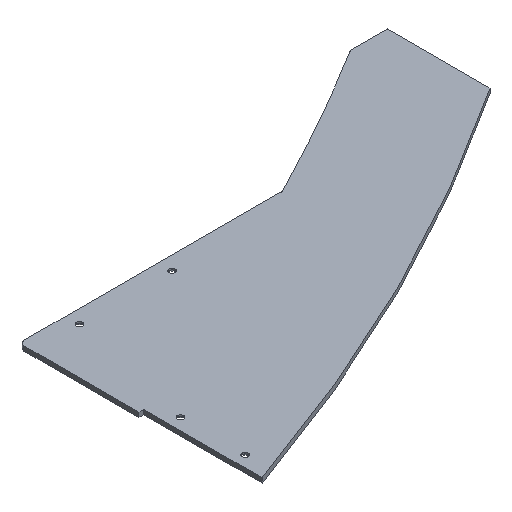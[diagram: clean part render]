
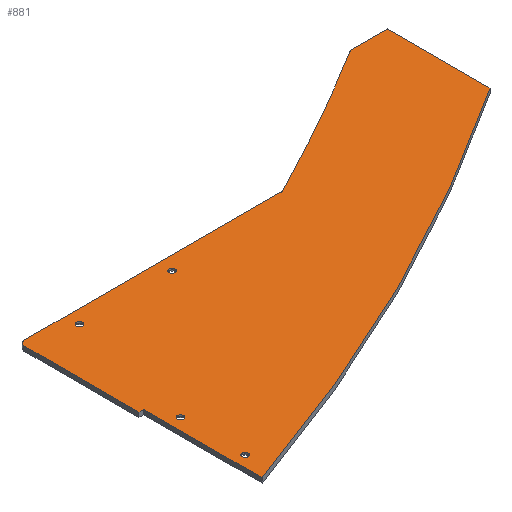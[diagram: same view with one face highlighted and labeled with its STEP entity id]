
A CAD part, isometric view. The second image highlights one B-rep face of the part: STEP entity #881.
In plain terms, the highlighted planar face has unit normal (0, 0, 1).
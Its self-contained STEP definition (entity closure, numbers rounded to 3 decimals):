
#573=PLANE('',#837);
#581=CIRCLE('',#832,10.);
#582=CIRCLE('',#835,10.);
#584=CIRCLE('',#838,4227.498);
#585=CIRCLE('',#839,4399.949);
#586=CIRCLE('',#840,6.75);
#587=CIRCLE('',#841,6.75);
#588=CIRCLE('',#842,6.75);
#589=CIRCLE('',#843,6.75);
#612=ORIENTED_EDGE('',*,*,#719,.T.);
#613=ORIENTED_EDGE('',*,*,#726,.T.);
#614=ORIENTED_EDGE('',*,*,#727,.T.);
#615=ORIENTED_EDGE('',*,*,#728,.F.);
#616=ORIENTED_EDGE('',*,*,#729,.T.);
#617=ORIENTED_EDGE('',*,*,#730,.T.);
#618=ORIENTED_EDGE('',*,*,#731,.F.);
#619=ORIENTED_EDGE('',*,*,#732,.F.);
#620=ORIENTED_EDGE('',*,*,#723,.F.);
#621=ORIENTED_EDGE('',*,*,#722,.F.);
#622=ORIENTED_EDGE('',*,*,#733,.T.);
#623=ORIENTED_EDGE('',*,*,#734,.T.);
#624=ORIENTED_EDGE('',*,*,#735,.T.);
#625=ORIENTED_EDGE('',*,*,#736,.T.);
#685=VERTEX_POINT('',#1179);
#687=VERTEX_POINT('',#1183);
#689=VERTEX_POINT('',#1188);
#690=VERTEX_POINT('',#1193);
#692=VERTEX_POINT('',#1199);
#693=VERTEX_POINT('',#1201);
#694=VERTEX_POINT('',#1203);
#695=VERTEX_POINT('',#1205);
#696=VERTEX_POINT('',#1207);
#697=VERTEX_POINT('',#1209);
#698=VERTEX_POINT('',#1212);
#699=VERTEX_POINT('',#1214);
#700=VERTEX_POINT('',#1216);
#701=VERTEX_POINT('',#1218);
#719=EDGE_CURVE('',#685,#687,#581,.T.);
#722=EDGE_CURVE('',#685,#689,#1081,.T.);
#723=EDGE_CURVE('',#689,#690,#582,.T.);
#726=EDGE_CURVE('',#687,#692,#1083,.T.);
#727=EDGE_CURVE('',#692,#693,#1084,.T.);
#728=EDGE_CURVE('',#694,#693,#1085,.T.);
#729=EDGE_CURVE('',#694,#695,#584,.T.);
#730=EDGE_CURVE('',#695,#696,#1086,.T.);
#731=EDGE_CURVE('',#697,#696,#1087,.T.);
#732=EDGE_CURVE('',#690,#697,#585,.T.);
#733=EDGE_CURVE('',#698,#698,#586,.T.);
#734=EDGE_CURVE('',#699,#699,#587,.T.);
#735=EDGE_CURVE('',#700,#700,#588,.T.);
#736=EDGE_CURVE('',#701,#701,#589,.T.);
#761=EDGE_LOOP('',(#612,#613,#614,#615,#616,#617,#618,#619,#620,#621));
#762=EDGE_LOOP('',(#622));
#763=EDGE_LOOP('',(#623));
#764=EDGE_LOOP('',(#624));
#765=EDGE_LOOP('',(#625));
#797=FACE_BOUND('',#761,.T.);
#798=FACE_BOUND('',#762,.T.);
#799=FACE_BOUND('',#763,.T.);
#800=FACE_BOUND('',#764,.T.);
#801=FACE_BOUND('',#765,.T.);
#832=AXIS2_PLACEMENT_3D('',#1185,#923,#924);
#835=AXIS2_PLACEMENT_3D('',#1194,#932,#933);
#837=AXIS2_PLACEMENT_3D('',#1198,#937,#938);
#838=AXIS2_PLACEMENT_3D('',#1206,#942,#943);
#839=AXIS2_PLACEMENT_3D('',#1211,#946,#947);
#840=AXIS2_PLACEMENT_3D('',#1213,#948,#949);
#841=AXIS2_PLACEMENT_3D('',#1215,#950,#951);
#842=AXIS2_PLACEMENT_3D('',#1217,#952,#953);
#843=AXIS2_PLACEMENT_3D('',#1219,#954,#955);
#881=ADVANCED_FACE('',(#797,#798,#799,#800,#801),#573,.T.);
#923=DIRECTION('',(0.,0.,1.));
#924=DIRECTION('',(-10.,0.,0.));
#929=DIRECTION('',(556.824,0.,0.));
#932=DIRECTION('',(0.,0.,1.));
#933=DIRECTION('',(-10.,0.,0.));
#937=DIRECTION('',(0.,0.,1.));
#938=DIRECTION('',(0.,-1.,0.));
#939=DIRECTION('',(0.,-248.228,0.));
#940=DIRECTION('',(10.2,0.,0.));
#941=DIRECTION('',(0.,255.999,0.));
#942=DIRECTION('',(0.,0.,1.));
#943=DIRECTION('',(2323.398,-3531.793,0.));
#944=DIRECTION('',(0.,221.487,0.));
#945=DIRECTION('',(80.,0.,0.));
#946=DIRECTION('',(0.,0.,1.));
#947=DIRECTION('',(2332.683,-3730.703,0.));
#948=DIRECTION('',(0.,0.,-1.));
#949=DIRECTION('',(-6.75,0.,0.));
#950=DIRECTION('',(0.,0.,-1.));
#951=DIRECTION('',(-6.75,0.,0.));
#952=DIRECTION('',(0.,0.,-1.));
#953=DIRECTION('',(0.,-6.75,0.));
#954=DIRECTION('',(0.,0.,-1.));
#955=DIRECTION('',(0.,-6.75,0.));
#1041=VECTOR('',#929,1.);
#1043=VECTOR('',#939,1.);
#1044=VECTOR('',#940,1.);
#1045=VECTOR('',#941,1.);
#1046=VECTOR('',#944,1.);
#1047=VECTOR('',#945,1.);
#1081=LINE('',#1191,#1041);
#1083=LINE('',#1200,#1043);
#1084=LINE('',#1202,#1044);
#1085=LINE('',#1204,#1045);
#1086=LINE('',#1208,#1046);
#1087=LINE('',#1210,#1047);
#1179=CARTESIAN_POINT('',(-175.777,228.75,10.));
#1183=CARTESIAN_POINT('',(-185.777,218.75,10.));
#1185=CARTESIAN_POINT('',(-175.777,218.75,10.));
#1188=CARTESIAN_POINT('',(381.047,228.75,10.));
#1191=CARTESIAN_POINT('',(-175.777,228.75,10.));
#1193=CARTESIAN_POINT('',(385.59,229.842,10.));
#1194=CARTESIAN_POINT('',(381.047,238.75,10.));
#1198=CARTESIAN_POINT('',(0.,0.,10.));
#1199=CARTESIAN_POINT('',(-185.777,-29.478,10.));
#1200=CARTESIAN_POINT('',(-185.777,218.75,10.));
#1201=CARTESIAN_POINT('',(-175.577,-29.478,10.));
#1202=CARTESIAN_POINT('',(-185.777,-29.478,10.));
#1203=CARTESIAN_POINT('',(-175.577,-285.477,10.));
#1204=CARTESIAN_POINT('',(-175.577,-285.477,10.));
#1205=CARTESIAN_POINT('',(799.222,197.263,10.));
#1206=CARTESIAN_POINT('',(-1548.679,3712.814,10.));
#1207=CARTESIAN_POINT('',(799.222,418.75,10.));
#1208=CARTESIAN_POINT('',(799.222,197.263,10.));
#1209=CARTESIAN_POINT('',(719.223,418.75,10.));
#1210=CARTESIAN_POINT('',(719.223,418.75,10.));
#1211=CARTESIAN_POINT('',(-1613.46,4149.453,10.));
#1212=CARTESIAN_POINT('',(-157.527,-224.375,10.));
#1213=CARTESIAN_POINT('',(-150.777,-224.375,10.));
#1214=CARTESIAN_POINT('',(-157.527,-84.375,10.));
#1215=CARTESIAN_POINT('',(-150.777,-84.375,10.));
#1216=CARTESIAN_POINT('',(114.223,192.,10.));
#1217=CARTESIAN_POINT('',(114.223,198.75,10.));
#1218=CARTESIAN_POINT('',(-85.777,192.,10.));
#1219=CARTESIAN_POINT('',(-85.777,198.75,10.));
